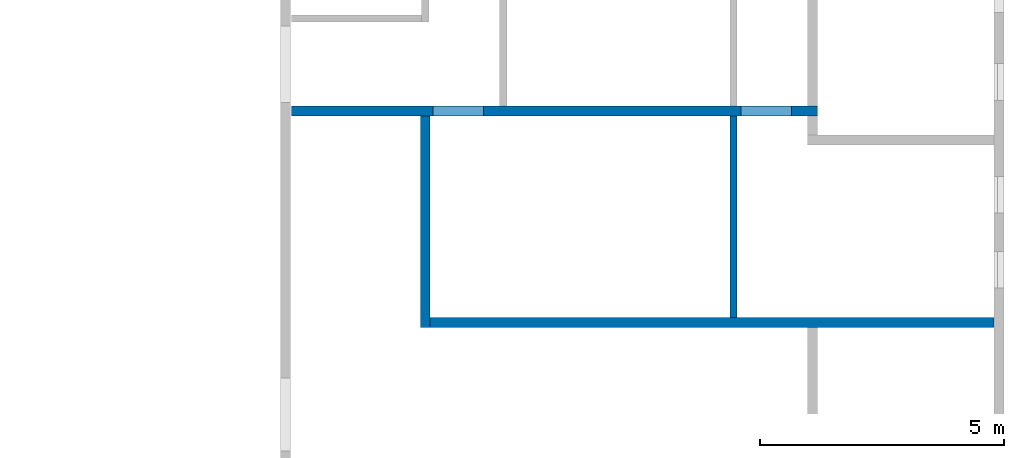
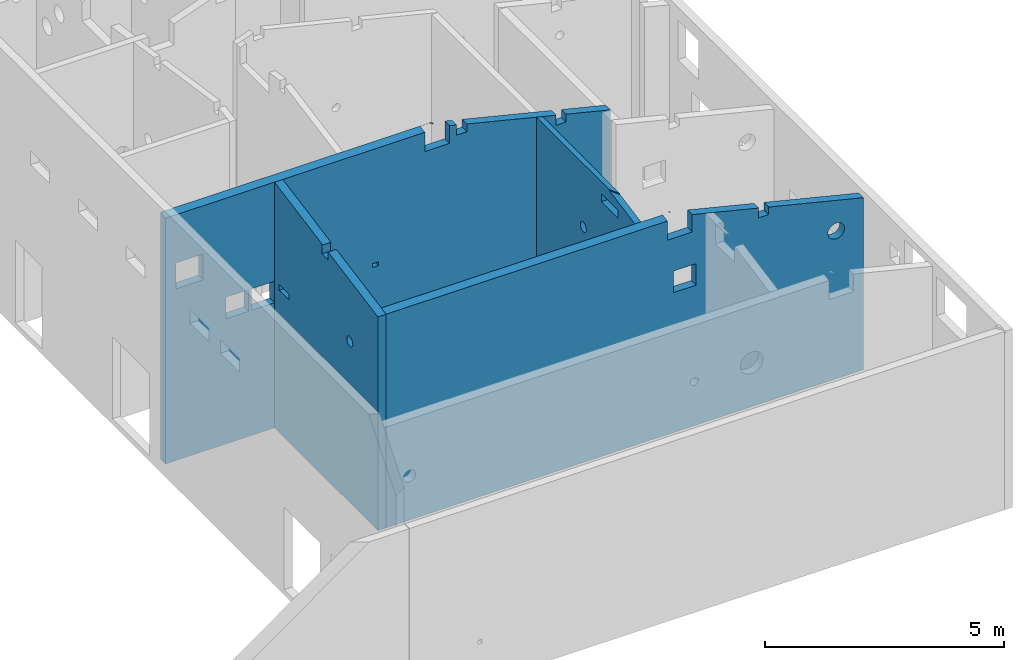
# One storey, part 6 of 13: 4 walls, 23 openings.
"""IFC2X3 building model written with IfcOpenShell, lengths in metres."""

from ifc_helpers import new_model, entity, si_unit, converted_unit, direction, frame, frame_2d, origin, origin_with_axes, place, context, subcontext, project, spatial, polyline, rectangle, outline, extrude, clip, halfspace, bounded_halfspace, material, layer, layer_set, layer_usage, element, save


model = new_model("IFC2X3")

# Units and contexts
model_context = context("Model", 3, precision=1e-05, world=origin(), true_north=direction((-0.407059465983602, -0.913401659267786)))
body_context = subcontext(model_context, "Body", "Model", "MODEL_VIEW")
ifc_project = project(units=[si_unit("LENGTHUNIT", "METRE"), si_unit("AREAUNIT", "SQUARE_METRE"), si_unit("VOLUMEUNIT", "CUBIC_METRE"), si_unit("MASSUNIT", "GRAM", prefix="KILO"), converted_unit("PLANEANGLEUNIT", "DEGREE", entity("IfcPlaneAngleMeasure", 0.0174532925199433), si_unit("PLANEANGLEUNIT", "RADIAN"), dimensions=[0, 0, 0, 0, 0, 0, 0])], contexts=[model_context])

# Site, buildings, storey
site_placement = place(None, origin())
site = spatial("IfcSite", under=ifc_project, at=site_placement, Name="Site", CompositionType="ELEMENT")
building_1_placement = place(site_placement, origin())
building_1 = spatial("IfcBuilding", under=site, at=building_1_placement, Name="Site", CompositionType="COMPLEX")
building_2_placement = place(building_1_placement, origin())
building_2 = spatial("IfcBuilding", under=building_1, at=building_2_placement, Name="Bâtiments", CompositionType="ELEMENT")
storey_placement = place(building_2_placement, frame((0.0, 0.0, -0.14)))
storey = spatial("IfcBuildingStorey", under=building_2, at=storey_placement, Name="RDC", CompositionType="ELEMENT", Elevation=-0.14)

# Wall, openings
ifc_material_1 = material(Name="Béton")
ifc_layer_1 = layer(ifc_material_1, 0.200000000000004)
ifc_layer_set_1 = layer_set([ifc_layer_1])
ifc_layer_usage_1 = layer_usage(ifc_layer_set_1, "AXIS2", "POSITIVE", -0.1)
wall_1_placement = place(storey_placement, frame((63.4334532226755, -15.4132553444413, 0.02), z_axis=(0.0, 0.0, 1.0), x_axis=(1.0, 4.68216348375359e-10, 0.0)))
wall_1 = element("IfcWallStandardCase", 1, at=wall_1_placement, inside=storey, material=ifc_layer_usage_1, context=body_context, shape_type="Clipping", body=[
    clip(clip(extrude(rectangle(XDim=10.7593817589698, YDim=0.200000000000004, at=frame_2d((5.37969087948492, 0.100000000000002), x_axis=(1.0, 0.0))), origin_with_axes(), (0.0, 0.0, 1.0), 6.33472051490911), bounded_halfspace(frame((8.66751190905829, 0.100000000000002, 5.80226197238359), z_axis=(-0.238533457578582, 1.11684572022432e-10, -0.971134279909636), x_axis=(0.971134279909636, 1.16741354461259e-16, -0.238533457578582)), True, origin_with_axes(), polyline([(6.65155507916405, -4.93807356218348e-16), (10.7593817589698, -8.470329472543e-25), (10.7593817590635, 0.200000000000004), (6.49972903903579, 0.200000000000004), (6.65155507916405, -4.93807356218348e-16)]))), bounded_halfspace(frame((3.28782102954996, 0.100000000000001, 6.3018824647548), z_axis=(-2.90379297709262e-07, 0.18652403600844, -0.982450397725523), x_axis=(0.999999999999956, -7.4239384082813e-17, -2.95566369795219e-07)), True, origin_with_axes(), polyline([(7.27595761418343e-15, -3.40672230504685e-24), (6.65155507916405, -4.93807356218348e-16), (6.49972903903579, 0.200000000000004), (8.97113814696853e-15, 0.200000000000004), (7.27595761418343e-15, -3.40672230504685e-24)]))),
])
opening_1_placement = place(wall_1_placement, frame((3.28449020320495, -1.50917242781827e-16, 3.7), z_axis=(4.68216967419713e-10, 1.0, 0.0), x_axis=(0.0, 0.0, 1.0)))
element("IfcOpeningElement", 2, at=opening_1_placement, cuts=wall_1, Name="CVC-100", ObjectType="Opening", context=body_context, shape_type="SweptSolid", body=[
    extrude(outline(polyline([(0.125, 0.0), (0.111933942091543, 0.000684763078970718), (0.09901103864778, 0.00273154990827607), (0.0863728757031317, 0.00611793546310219), (0.0741579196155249, 0.0108068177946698), (0.0625, 0.0167468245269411), (0.0515268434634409, 0.0238728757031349), (0.041358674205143, 0.0321068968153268), (0.0321068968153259, 0.0413586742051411), (0.0238728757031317, 0.0515268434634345), (0.0167468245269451, 0.0625), (0.0108068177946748, 0.0741579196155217), (0.00611793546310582, 0.0863728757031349), (0.00273154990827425, 0.09901103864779), (0.000684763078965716, 0.111933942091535), (0.0, 0.125), (0.000684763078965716, 0.138066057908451), (0.00273154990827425, 0.150988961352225), (0.00611793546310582, 0.163627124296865), (0.0108068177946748, 0.175842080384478), (0.0167468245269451, 0.1875), (0.0238728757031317, 0.198473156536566), (0.0321068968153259, 0.208641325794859), (0.0413586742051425, 0.217893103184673), (0.0515268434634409, 0.226127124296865), (0.0625, 0.233253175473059), (0.0741579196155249, 0.23919318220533), (0.0863728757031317, 0.243882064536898), (0.09901103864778, 0.247268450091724), (0.111933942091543, 0.249315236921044), (0.125, 0.25), (0.138066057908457, 0.249315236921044), (0.15098896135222, 0.247268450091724), (0.163627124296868, 0.243882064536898), (0.175842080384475, 0.23919318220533), (0.1875, 0.233253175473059), (0.198473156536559, 0.226127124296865), (0.208641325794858, 0.217893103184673), (0.217893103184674, 0.208641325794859), (0.226127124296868, 0.198473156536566), (0.233253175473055, 0.1875), (0.239193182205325, 0.175842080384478), (0.243882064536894, 0.163627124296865), (0.247268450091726, 0.150988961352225), (0.249315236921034, 0.138066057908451), (0.25, 0.125), (0.249315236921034, 0.111933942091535), (0.247268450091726, 0.09901103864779), (0.243882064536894, 0.0863728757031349), (0.239193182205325, 0.0741579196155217), (0.233253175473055, 0.0625), (0.226127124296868, 0.0515268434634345), (0.217893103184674, 0.0413586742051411), (0.208641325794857, 0.0321068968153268), (0.198473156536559, 0.0238728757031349), (0.1875, 0.0167468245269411), (0.175842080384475, 0.0108068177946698), (0.163627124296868, 0.00611793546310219), (0.15098896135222, 0.00273154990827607), (0.138066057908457, 0.000684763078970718), (0.125, 0.0)])), origin_with_axes(), (0.0, 0.0, 1.0), 0.200000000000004),
])
opening_2_placement = place(wall_1_placement, frame((2.0875820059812, -6.10811048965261e-16, 3.2), z_axis=(4.68216967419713e-10, 1.0, 0.0), x_axis=(0.0, 0.0, 1.0)))
element("IfcOpeningElement", 3, at=opening_2_placement, cuts=wall_1, Name="CVC-099", ObjectType="Opening", context=body_context, shape_type="SweptSolid", body=[
    extrude(outline(polyline([(0.0, 0.55), (0.55, 0.55), (0.55, 0.0), (0.0, 0.0), (0.0, 0.55)])), origin_with_axes(), (0.0, 0.0, 1.0), 0.200000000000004),
])
opening_3_placement = place(wall_1_placement, frame((0.253929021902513, 8.85002246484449e-16, 4.39), z_axis=(4.68216398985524e-10, 1.0, 0.0), x_axis=(0.0, 0.0, 1.0)))
element("IfcOpeningElement", 4, at=opening_3_placement, cuts=wall_1, Name="CVC-097", ObjectType="Opening", context=body_context, shape_type="SweptSolid", body=[
    extrude(outline(polyline([(0.0, 0.66), (0.66, 0.66), (0.66, 0.0), (0.0, 0.0), (0.0, 0.66)])), origin_with_axes(), (0.0, 0.0, 1.0), 0.200000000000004),
])
opening_4_placement = place(wall_1_placement, frame((1.46145222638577, -1.11497989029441e-15, 3.2), z_axis=(4.68215830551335e-10, 1.0, 0.0), x_axis=(0.0, 0.0, 1.0)))
element("IfcOpeningElement", 5, at=opening_4_placement, cuts=wall_1, Name="CVC-098", ObjectType="Opening", context=body_context, shape_type="SweptSolid", body=[
    extrude(outline(polyline([(0.0, 0.55), (0.55, 0.55), (0.55, 0.0), (0.0, 0.0), (0.0, 0.55)])), origin_with_axes(), (0.0, 0.0, 1.0), 0.200000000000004),
])
opening_5_placement = place(wall_1_placement, frame((7.04119300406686, 2.02034729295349e-16, 5.94), z_axis=(4.68216967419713e-10, 1.0, 0.0), x_axis=(0.0, 0.0, 1.0)))
element("IfcOpeningElement", 6, at=opening_5_placement, cuts=wall_1, Name="Percement dans mur", ObjectType="Opening", context=body_context, shape_type="SweptSolid", body=[
    extrude(outline(polyline([(0.0, 0.25), (0.26, 0.25), (0.26, 0.0), (0.0, 0.0), (0.0, 0.25)])), origin_with_axes(), (0.0, 0.0, 1.0), 0.200000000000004),
])
opening_6_placement = place(wall_1_placement, frame((9.43896598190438, 3.16008230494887e-16, 5.35), z_axis=(4.68216967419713e-10, 1.0, 0.0), x_axis=(0.0, 0.0, 1.0)))
element("IfcOpeningElement", 7, at=opening_6_placement, cuts=wall_1, Name="Percement dans mur", ObjectType="Opening", context=body_context, shape_type="SweptSolid", body=[
    extrude(outline(polyline([(0.0, 0.25), (0.26, 0.25), (0.26, 0.0), (0.0, 0.0), (0.0, 0.25)])), origin_with_axes(), (0.0, 0.0, 1.0), 0.200000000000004),
])
opening_7_placement = place(wall_1_placement, frame((6.27402313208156, 3.8359286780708e-16, 5.79), z_axis=(4.68216967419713e-10, 1.0, 0.0), x_axis=(0.0, 0.0, 1.0)))
element("IfcOpeningElement", 8, at=opening_7_placement, cuts=wall_1, Name="Percement dans mur", ObjectType="Opening", context=body_context, shape_type="SweptSolid", body=[
    extrude(outline(polyline([(0.0, 0.6), (0.53, 0.6), (0.53, 0.0), (0.0, 0.0), (0.0, 0.6)])), origin_with_axes(), (0.0, 0.0, 1.0), 0.200000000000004),
])
opening_8_placement = place(wall_1_placement, frame((2.8993222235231, -9.13846431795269e-17, 0.12), z_axis=(4.68216967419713e-10, 1.0, 0.0), x_axis=(0.0, 0.0, 1.0)))
element("IfcOpeningElement", 9, at=opening_8_placement, cuts=wall_1, Name="Baie de porte", ObjectType="Opening", context=body_context, shape_type="SweptSolid", body=[
    extrude(outline(polyline([(0.0, 1.03), (2.1, 1.03), (2.1, 0.0), (0.0, 0.0), (0.0, 1.03)])), origin_with_axes(), (0.0, 0.0, 1.0), 0.200000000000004),
])
opening_9_placement = place(wall_1_placement, frame((3.26635295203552, 0.200000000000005, 3.64), z_axis=(-4.68216967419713e-10, -1.0, 0.0), x_axis=(0.0, 0.0, 1.0)))
element("IfcOpeningElement", 10, at=opening_9_placement, cuts=wall_1, Name="PB-RDC-35", ObjectType="Opening", context=body_context, shape_type="SweptSolid", body=[
    extrude(outline(polyline([(0.0, 0.4), (0.15, 0.4), (0.15, 0.0), (0.0, 0.0), (0.0, 0.4)])), origin_with_axes(), (0.0, 0.0, 1.0), 0.200000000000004),
])
opening_10_placement = place(wall_1_placement, frame((5.00429303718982, -6.29662533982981e-16, 3.27), z_axis=(4.68216967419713e-10, 1.0, 0.0), x_axis=(0.0, 0.0, 1.0)))
element("IfcOpeningElement", 11, at=opening_10_placement, cuts=wall_1, Name="PB-RDC-36", ObjectType="Opening", context=body_context, shape_type="SweptSolid", body=[
    extrude(outline(polyline([(0.0, 0.15), (0.1, 0.15), (0.1, 0.0), (0.0, 0.0), (0.0, 0.15)])), origin_with_axes(), (0.0, 0.0, 1.0), 0.200000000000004),
])
opening_11_placement = place(wall_1_placement, frame((8.96938067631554, 0.200000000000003, 0.15), z_axis=(-4.68216967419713e-10, -1.0, 0.0), x_axis=(0.0, 0.0, 1.0)))
element("IfcOpeningElement", 12, at=opening_11_placement, cuts=wall_1, Name="PB-RDC-38", ObjectType="Opening", context=body_context, shape_type="SweptSolid", body=[
    extrude(outline(polyline([(0.0, 0.1), (0.15, 0.1), (0.15, 0.0), (0.0, 0.0), (0.0, 0.1)])), origin_with_axes(), (0.0, 0.0, 1.0), 0.200000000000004),
])
opening_12_placement = place(wall_1_placement, frame((9.20350059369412, 1.12495909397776e-16, 0.12), z_axis=(4.68216967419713e-10, 1.0, 0.0), x_axis=(0.0, 0.0, 1.0)))
element("IfcOpeningElement", 13, at=opening_12_placement, cuts=wall_1, Name="Baie de porte", ObjectType="Opening", context=body_context, shape_type="SweptSolid", body=[
    extrude(outline(polyline([(0.0, 1.03), (2.1, 1.03), (2.1, 0.0), (0.0, 0.0), (0.0, 1.03)])), origin_with_axes(), (0.0, 0.0, 1.0), 0.200000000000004),
])

ifc_material_2 = material(Name="Béton")
ifc_layer_2 = layer(ifc_material_2, 0.200000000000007)
ifc_layer_set_2 = layer_set([ifc_layer_2])
ifc_layer_usage_2 = layer_usage(ifc_layer_set_2, "AXIS2", "POSITIVE", -0.1)
wall_2_placement = place(storey_placement, frame((66.2729476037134, -19.7400174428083, 0.02), z_axis=(0.0, 0.0, 1.0), x_axis=(1.0, 4.68229256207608e-10, 0.0)))
wall_2 = element("IfcWallStandardCase", 14, at=wall_2_placement, inside=storey, material=ifc_layer_usage_2, context=body_context, shape_type="Clipping", body=[
    clip(clip(extrude(outline(polyline([(9.36415744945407e-11, -4.38457247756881e-20), (11.5401567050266, -4.38458134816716e-20), (11.5401567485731, 0.200000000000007), (9.36458512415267e-11, 0.200000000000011), (9.36415744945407e-11, -4.38457247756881e-20)])), frame((-9.36415744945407e-11, 4.38457247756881e-20, 0.0), z_axis=(0.0, 0.0, 1.0), x_axis=(1.0, 0.0, 0.0)), (0.0, 0.0, 1.0), 5.52795132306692), bounded_halfspace(frame((9.28044009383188, 0.100000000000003, 4.9542656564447), z_axis=(-0.238533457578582, 1.11688455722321e-10, -0.971134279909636), x_axis=(0.971134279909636, -1.36322738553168e-16, -0.238533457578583)), True, origin_with_axes(), polyline([(7.09663648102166, 6.23758071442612e-16), (11.540156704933, 0.0), (11.5401567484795, 0.200000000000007), (6.9448104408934, 0.200000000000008), (7.09663648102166, 6.23758071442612e-16)]))), bounded_halfspace(frame((3.51036173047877, 0.100000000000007, 5.48042010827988), z_axis=(-2.90379295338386e-07, 0.186524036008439, -0.982450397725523), x_axis=(0.999999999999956, 8.78948884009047e-17, -2.95566367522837e-07)), True, origin_with_axes(), polyline([(0.0, 0.0), (7.09663648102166, 6.23758071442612e-16), (6.9448104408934, 0.200000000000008), (4.27674698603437e-15, 0.200000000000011), (0.0, 0.0)]))),
])
opening_13_placement = place(wall_2_placement, frame((10.6833515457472, -5.08530420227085e-16, 3.58), z_axis=(4.68226062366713e-10, 1.0, 0.0), x_axis=(0.0, 0.0, 1.0)))
element("IfcOpeningElement", 15, at=opening_13_placement, cuts=wall_2, Name="CVC-119", ObjectType="Opening", context=body_context, shape_type="SweptSolid", body=[
    extrude(outline(polyline([(0.2, 0.0), (0.179094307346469, 0.0010956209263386), (0.158417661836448, 0.0043704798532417), (0.138196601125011, 0.00978869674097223), (0.11865267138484, 0.0172909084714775), (0.1, 0.0267949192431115), (0.0824429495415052, 0.0381966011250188), (0.0661738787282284, 0.0513710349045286), (0.0513710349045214, 0.0661738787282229), (0.0381966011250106, 0.0824429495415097), (0.0267949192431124, 0.1), (0.0172909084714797, 0.118652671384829), (0.0097886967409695, 0.138196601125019), (0.00437047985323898, 0.158417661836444), (0.00109562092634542, 0.179094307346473), (0.0, 0.2), (0.00109562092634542, 0.220905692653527), (0.00437047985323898, 0.241582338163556), (0.0097886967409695, 0.261803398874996), (0.0172909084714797, 0.281347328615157), (0.0267949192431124, 0.3), (0.0381966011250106, 0.31755705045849), (0.0513710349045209, 0.333826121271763), (0.0661738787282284, 0.348628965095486), (0.0824429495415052, 0.361803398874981), (0.1, 0.373205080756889), (0.11865267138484, 0.382709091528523), (0.138196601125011, 0.390211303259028), (0.158417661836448, 0.395629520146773), (0.179094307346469, 0.398904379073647), (0.2, 0.4), (0.220905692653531, 0.398904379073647), (0.241582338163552, 0.395629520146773), (0.261803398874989, 0.390211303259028), (0.28134732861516, 0.382709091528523), (0.3, 0.373205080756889), (0.317557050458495, 0.361803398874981), (0.333826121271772, 0.348628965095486), (0.348628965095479, 0.333826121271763), (0.361803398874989, 0.31755705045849), (0.373205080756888, 0.3), (0.38270909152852, 0.281347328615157), (0.390211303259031, 0.261803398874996), (0.395629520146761, 0.241582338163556), (0.398904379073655, 0.220905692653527), (0.4, 0.2), (0.398904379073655, 0.179094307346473), (0.395629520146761, 0.158417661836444), (0.390211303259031, 0.138196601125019), (0.38270909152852, 0.118652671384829), (0.373205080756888, 0.1), (0.361803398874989, 0.0824429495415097), (0.348628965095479, 0.0661738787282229), (0.333826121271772, 0.0513710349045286), (0.317557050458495, 0.0381966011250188), (0.3, 0.0267949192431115), (0.28134732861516, 0.0172909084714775), (0.261803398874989, 0.00978869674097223), (0.241582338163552, 0.0043704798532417), (0.220905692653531, 0.0010956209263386), (0.2, 0.0)])), origin_with_axes(), (0.0, 0.0, 1.0), 0.200000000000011),
])
opening_14_placement = place(wall_2_placement, frame((7.49314772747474, 0.200000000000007, 3.58), z_axis=(-4.68230609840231e-10, -1.0, 0.0), x_axis=(0.0, 0.0, 1.0)))
element("IfcOpeningElement", 16, at=opening_14_placement, cuts=wall_2, Name="CVC-106", ObjectType="Opening", context=body_context, shape_type="SweptSolid", body=[
    extrude(outline(polyline([(0.0, 0.55), (0.55, 0.55), (0.55, 0.0), (0.0, 0.0), (0.0, 0.55)])), origin_with_axes(), (0.0, 0.0, 1.0), 0.200000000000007),
])
opening_15_placement = place(wall_2_placement, frame((8.99726004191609, 2.7192582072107e-15, 4.77), z_axis=(4.68226062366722e-10, 1.0, 0.0), x_axis=(0.0, 0.0, 1.0)))
element("IfcOpeningElement", 17, at=opening_15_placement, cuts=wall_2, Name="Percement dans mur", ObjectType="Opening", context=body_context, shape_type="SweptSolid", body=[
    extrude(outline(polyline([(0.0, 0.25), (0.25, 0.25), (0.25, 0.0), (0.0, 0.0), (0.0, 0.25)])), origin_with_axes(), (0.0, 0.0, 1.0), 0.200000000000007),
])
opening_16_placement = place(wall_2_placement, frame((6.80102745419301, -7.61155113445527e-16, 4.97), z_axis=(4.68230609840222e-10, 1.0, 0.0), x_axis=(0.0, 0.0, 1.0)))
element("IfcOpeningElement", 18, at=opening_16_placement, cuts=wall_2, Name="Percement dans mur", ObjectType="Opening", context=body_context, shape_type="SweptSolid", body=[
    extrude(outline(polyline([(0.0, 0.6), (0.55, 0.6), (0.55, 0.0), (0.0, 0.0), (0.0, 0.6)])), origin_with_axes(), (0.0, 0.0, 1.0), 0.200000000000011),
])

ifc_material_3 = material(Name="Béton")
ifc_layer_3 = layer(ifc_material_3, 0.199999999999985)
ifc_layer_set_3 = layer_set([ifc_layer_3])
ifc_layer_usage_3 = layer_usage(ifc_layer_set_3, "AXIS2", "POSITIVE", -0.1)
wall_3_placement = place(storey_placement, frame((66.0729476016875, -15.4132576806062, 0.02), z_axis=(0.0, 0.0, 1.0), x_axis=(4.68243202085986e-10, -1.0, 0.0)))
wall_3 = element("IfcWallStandardCase", 19, at=wall_3_placement, inside=storey, material=ifc_layer_usage_3, context=body_context, shape_type="Clipping", body=[
    clip(extrude(outline(polyline([(-4.32675976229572, 2.02597584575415e-09), (9.48649417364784e-19, 2.02597584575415e-09), (3.42889249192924e-15, 0.200000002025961), (-4.32676209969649, 0.200000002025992), (-4.32676209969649, 0.100000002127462), (-4.32675742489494, 0.100000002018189), (-4.32675976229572, 2.02597584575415e-09)])), frame((4.32675976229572, -2.02597584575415e-09, 0.0), z_axis=(0.0, 0.0, 1.0), x_axis=(1.0, 0.0, 0.0)), (0.0, 0.0, 1.0), 6.28289700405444), halfspace(frame((2.16337929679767, 0.1, 5.87216619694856), z_axis=(-0.186524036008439, -2.9037929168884e-07, -0.982450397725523), x_axis=(1.71397192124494e-14, 0.999999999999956, -2.95566364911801e-07)), True)),
])
opening_17_placement = place(wall_3_placement, frame((3.27675976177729, 0.19999999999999, 4.0), z_axis=(-1.81898940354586e-14, -1.0, 0.0), x_axis=(0.0, 0.0, 1.0)))
element("IfcOpeningElement", 20, at=opening_17_placement, cuts=wall_3, Name="CVC-101", ObjectType="Opening", context=body_context, shape_type="SweptSolid", body=[
    extrude(outline(polyline([(0.124964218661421, 0.249999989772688), (0.138030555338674, 0.249318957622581), (0.150954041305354, 0.247275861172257), (0.163593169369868, 0.243893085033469), (0.175809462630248, 0.239207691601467), (0.187469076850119, 0.233271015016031), (0.198444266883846, 0.226148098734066), (0.208614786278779, 0.217916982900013), (0.217869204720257, 0.208667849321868), (0.226106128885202, 0.19850203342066), (0.233235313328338, 0.187530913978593), (0.239178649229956, 0.175874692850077), (0.243871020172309, 0.163661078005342), (0.247261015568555, 0.151023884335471), (0.249311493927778, 0.138101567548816), (0.249999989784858, 0.12503570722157), (0.249318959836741, 0.111969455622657), (0.247275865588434, 0.0990459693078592), (0.243893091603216, 0.0864068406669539), (0.239207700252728, 0.0741905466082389), (0.233271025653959, 0.062530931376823), (0.226148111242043, 0.0515557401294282), (0.217916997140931, 0.041385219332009), (0.208667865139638, 0.0321307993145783), (0.19850205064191, 0.0238938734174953), (0.187530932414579, 0.0167646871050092), (0.175874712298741, 0.0108213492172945), (0.163661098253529, 0.00612897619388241), (0.151023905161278, 0.00273897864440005), (0.138101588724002, 0.000688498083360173), (0.125035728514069, 0.0), (0.111969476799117, 0.000681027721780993), (0.0990459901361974, 0.00272411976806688), (0.0864068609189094, 0.00610689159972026), (0.0741905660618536, 0.0107922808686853), (0.0625309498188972, 0.0167289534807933), (0.0515557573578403, 0.0238518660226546), (0.0413852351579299, 0.032082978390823), (0.0321308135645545, 0.0413321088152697), (0.0238938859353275, 0.0514979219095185), (0.0167646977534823, 0.0624690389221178), (0.0108213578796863, 0.0741252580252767), (0.00612898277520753, 0.0863388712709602), (0.00273898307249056, 0.0989760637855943), (0.000688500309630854, 0.111898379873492), (0.0, 0.124964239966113), (0.000681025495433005, 0.138030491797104), (0.00272411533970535, 0.150953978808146), (0.00610688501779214, 0.163593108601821), (0.0107922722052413, 0.175809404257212), (0.0167289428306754, 0.187469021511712), (0.0238518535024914, 0.198444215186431), (0.0320829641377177, 0.20861473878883), (0.0413320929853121, 0.217869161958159), (0.05149790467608, 0.226106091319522), (0.062469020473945, 0.233235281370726), (0.0741252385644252, 0.239178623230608), (0.0863388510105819, 0.243871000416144), (0.0989760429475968, 0.247261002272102), (0.111898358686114, 0.249311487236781), (0.124964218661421, 0.249999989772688)])), origin_with_axes(), (0.0, 0.0, 1.0), 0.2),
])
opening_18_placement = place(wall_3_placement, frame((2.24322869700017, 0.199999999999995, 5.66), z_axis=(-1.81898940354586e-14, -1.0, 0.0), x_axis=(0.0, 0.0, 1.0)))
element("IfcOpeningElement", 21, at=opening_18_placement, cuts=wall_3, Name="Percement dans mur", ObjectType="Opening", context=body_context, shape_type="SweptSolid", body=[
    extrude(outline(polyline([(0.0, 0.25), (0.24, 0.25), (0.24, 0.0), (0.0, 0.0), (0.0, 0.25)])), origin_with_axes(), (0.0, 0.0, 1.0), 0.2),
])
opening_19_placement = place(wall_3_placement, frame((0.596974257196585, 0.200000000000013, 3.64), z_axis=(1.13686837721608e-15, -1.0, 0.0), x_axis=(0.0, 0.0, 1.0)))
element("IfcOpeningElement", 22, at=opening_19_placement, cuts=wall_3, Name="PB-RDC-37", ObjectType="Opening", context=body_context, shape_type="SweptSolid", body=[
    extrude(outline(polyline([(0.0, 0.4), (0.15, 0.4), (0.15, 0.0), (0.0, 0.0), (0.0, 0.4)])), origin_with_axes(), (0.0, 0.0, 1.0), 0.200000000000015),
])

ifc_material_4 = material(Name="Mur_Maconnerie")
ifc_layer_4 = layer(ifc_material_4, 0.150000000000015)
ifc_layer_set_4 = layer_set([ifc_layer_4])
ifc_layer_usage_4 = layer_usage(ifc_layer_set_4, "AXIS2", "POSITIVE", -0.150000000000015)
wall_4_placement = place(storey_placement, frame((72.4030041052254, -15.4132553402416, 0.02), z_axis=(0.0, 0.0, 1.0), x_axis=(0.0, -1.0, 0.0)))
wall_4 = element("IfcWallStandardCase", 23, at=wall_4_placement, inside=storey, material=ifc_layer_usage_4, context=body_context, shape_type="Clipping", body=[
    clip(clip(extrude(rectangle(XDim=4.12676209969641, YDim=0.150000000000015, at=frame_2d((2.0633810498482, 0.0750000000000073), x_axis=(1.0, 0.0))), origin_with_axes(), (0.0, 0.0, 1.0), 5.72807408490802), bounded_halfspace(frame((1.57614319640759, 0.0750000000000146, 5.70965231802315), z_axis=(-1.39628389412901e-16, -0.238533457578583, -0.971134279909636), x_axis=(1.0, 0.0, -2.97854247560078e-16)), True, origin_with_axes(), polyline([(0.0, 0.0), (3.05348911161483, 0.0), (3.25108367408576, 0.150000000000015), (-7.02329998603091e-11, 0.150000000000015), (0.0, 0.0)]))), bounded_halfspace(frame((3.63952424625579, 0.0750000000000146, 5.59190990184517), z_axis=(-0.186524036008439, -2.90466628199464e-07, -0.982450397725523), x_axis=(-0.982450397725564, 0.0, 0.186524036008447)), True, origin_with_axes(), polyline([(4.12676209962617, 0.150000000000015), (3.25108367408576, 0.150000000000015), (3.05348911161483, 0.0), (4.1267620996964, 0.0), (4.12676209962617, 0.150000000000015)]))),
])
opening_20_placement = place(wall_4_placement, frame((2.72133986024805, 0.0, 5.22), z_axis=(0.0, 1.0, 0.0), x_axis=(0.0, 0.0, 1.0)))
element("IfcOpeningElement", 24, at=opening_20_placement, cuts=wall_4, Name="Percement dans mur", ObjectType="Opening", context=body_context, shape_type="SweptSolid", body=[
    extrude(outline(polyline([(0.0, 0.7), (0.2, 0.7), (0.2, 0.0), (0.0, 0.0), (0.0, 0.7)])), origin_with_axes(), (0.0, 0.0, 1.0), 0.150000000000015),
])
opening_21_placement = place(wall_4_placement, frame((3.97636052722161, 0.0, 0.27), z_axis=(0.0, 1.0, 0.0), x_axis=(0.0, 0.0, 1.0)))
element("IfcOpeningElement", 25, at=opening_21_placement, cuts=wall_4, Name="PB-RDC-39", ObjectType="Opening", context=body_context, shape_type="SweptSolid", body=[
    extrude(outline(polyline([(0.0, 0.15), (0.1, 0.15), (0.1, 0.0), (0.0, 0.0), (0.0, 0.15)])), origin_with_axes(), (0.0, 0.0, 1.0), 0.150000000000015),
])
opening_22_placement = place(wall_4_placement, frame((3.7477577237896, 0.0, 3.34000000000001), z_axis=(0.0, 1.0, 0.0), x_axis=(0.0, 0.0, 1.0)))
element("IfcOpeningElement", 26, at=opening_22_placement, cuts=wall_4, Name="CVC-110", ObjectType="Opening", context=body_context, shape_type="SweptSolid", body=[
    extrude(outline(polyline([(0.111933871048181, 0.000684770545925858), (0.0990109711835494, 0.00273156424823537), (0.0863728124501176, 0.00611795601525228), (0.0741578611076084, 0.010806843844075), (0.0624999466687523, 0.0167468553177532), (0.0515267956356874, 0.023872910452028), (0.0413586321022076, 0.0321069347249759), (0.0321068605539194, 0.041358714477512), (0.0238728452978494, 0.0515268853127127), (0.0167467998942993, 0.0625000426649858), (0.0108067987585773, 0.0741579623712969), (0.00611792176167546, 0.0863729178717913), (0.00273154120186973, 0.0990110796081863), (0.000684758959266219, 0.111933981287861), (0.0, 0.125000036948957), (0.000684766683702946, 0.138066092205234), (0.00273155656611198, 0.150988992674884), (0.0061179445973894, 0.163627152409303), (0.0108068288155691, 0.17584210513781), (0.016746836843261, 0.187500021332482), (0.0238728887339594, 0.198473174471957), (0.0321069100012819, 0.20864134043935), (0.0413586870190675, 0.217893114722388), (0.0515268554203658, 0.226127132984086), (0.0625000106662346, 0.233253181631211), (0.0741579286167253, 0.239193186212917), (0.0863728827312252, 0.243882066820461), (0.099011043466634, 0.247268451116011), (0.111933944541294, 0.249315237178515), (0.12499999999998, 0.250000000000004), (0.138066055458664, 0.249315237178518), (0.150988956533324, 0.247268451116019), (0.163627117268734, 0.243882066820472), (0.175842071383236, 0.239193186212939), (0.187499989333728, 0.233253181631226), (0.198473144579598, 0.226127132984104), (0.208641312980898, 0.21789311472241), (0.217893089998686, 0.208641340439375), (0.226127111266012, 0.198473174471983), (0.233253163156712, 0.187500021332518), (0.239193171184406, 0.175842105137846), (0.24388205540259, 0.163627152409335), (0.247268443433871, 0.150988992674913), (0.249315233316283, 0.138066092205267), (0.249999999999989, 0.125000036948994), (0.249315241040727, 0.111933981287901), (0.247268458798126, 0.099011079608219), (0.243882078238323, 0.086372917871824), (0.239193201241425, 0.0741579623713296), (0.233253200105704, 0.0625000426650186), (0.226127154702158, 0.0515268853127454), (0.217893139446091, 0.0413587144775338), (0.208641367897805, 0.0321069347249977), (0.198473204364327, 0.0238729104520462), (0.187500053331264, 0.0167468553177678), (0.17584213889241, 0.0108068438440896), (0.163627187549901, 0.00611795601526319), (0.150989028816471, 0.00273156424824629), (0.138066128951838, 0.000684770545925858), (0.125000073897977, 0.0), (0.111933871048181, 0.000684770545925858)])), origin_with_axes(), (0.0, 0.0, 1.0), 0.150000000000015),
])
opening_23_placement = place(wall_4_placement, frame((1.84295784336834, 0.0, 3.99000000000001), z_axis=(0.0, 1.0, 0.0), x_axis=(0.0, 0.0, 1.0)))
element("IfcOpeningElement", 27, at=opening_23_placement, cuts=wall_4, Name="CVC-107", ObjectType="Opening", context=body_context, shape_type="SweptSolid", body=[
    extrude(outline(polyline([(0.111933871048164, 0.000684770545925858), (0.099010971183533, 0.00273156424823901), (0.0863728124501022, 0.00611795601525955), (0.0741578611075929, 0.0108068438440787), (0.0624999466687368, 0.0167468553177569), (0.0515267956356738, 0.0238729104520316), (0.0413586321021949, 0.0321069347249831), (0.0321068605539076, 0.0413587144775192), (0.0238728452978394, 0.0515268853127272), (0.0167467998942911, 0.0625000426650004), (0.01080679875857, 0.0741579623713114), (0.00611792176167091, 0.0863729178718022), (0.002731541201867, 0.0990110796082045), (0.0006847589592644, 0.111933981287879), (0.0, 0.125000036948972), (0.000684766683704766, 0.138066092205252), (0.00273155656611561, 0.150988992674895), (0.00611794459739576, 0.163627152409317), (0.0108068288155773, 0.175842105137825), (0.016746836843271, 0.187500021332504), (0.0238728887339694, 0.198473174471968), (0.0321069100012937, 0.208641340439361), (0.0413586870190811, 0.217893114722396), (0.0515268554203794, 0.226127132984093), (0.0625000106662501, 0.233253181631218), (0.0741579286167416, 0.239193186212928), (0.0863728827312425, 0.243882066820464), (0.0990110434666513, 0.247268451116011), (0.111933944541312, 0.249315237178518), (0.124999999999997, 0.250000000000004), (0.138066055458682, 0.249315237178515), (0.150988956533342, 0.247268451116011), (0.163627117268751, 0.243882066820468), (0.175842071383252, 0.239193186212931), (0.187499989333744, 0.233253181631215), (0.198473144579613, 0.226127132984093), (0.208641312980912, 0.217893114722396), (0.217893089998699, 0.208641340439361), (0.226127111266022, 0.198473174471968), (0.233253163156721, 0.1875000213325), (0.239193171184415, 0.175842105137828), (0.243882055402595, 0.163627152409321), (0.247268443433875, 0.150988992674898), (0.249315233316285, 0.138066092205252), (0.24999999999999, 0.125000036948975), (0.249315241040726, 0.111933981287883), (0.247268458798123, 0.0990110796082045), (0.243882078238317, 0.0863729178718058), (0.239193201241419, 0.0741579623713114), (0.233253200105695, 0.0625000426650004), (0.226127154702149, 0.0515268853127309), (0.21789313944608, 0.0413587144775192), (0.208641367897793, 0.0321069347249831), (0.198473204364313, 0.0238729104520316), (0.18750005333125, 0.0167468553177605), (0.175842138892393, 0.0108068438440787), (0.163627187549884, 0.00611795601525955), (0.150989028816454, 0.00273156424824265), (0.138066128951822, 0.000684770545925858), (0.12500007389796, 0.0), (0.111933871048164, 0.000684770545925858)])), origin_with_axes(), (0.0, 0.0, 1.0), 0.150000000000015),
])

save(model, "model.ifc")
